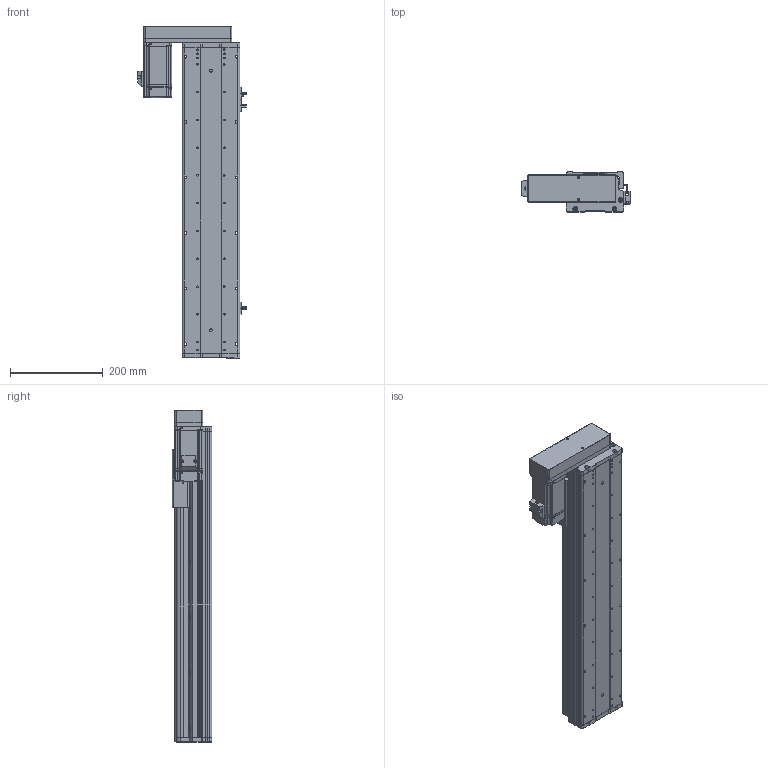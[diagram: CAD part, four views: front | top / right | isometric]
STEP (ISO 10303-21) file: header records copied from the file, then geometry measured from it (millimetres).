
FILE_DESCRIPTION (( 'STEP AP214' ), '1' );
FILE_NAME ('KSD125S-S450-ML-CM.STEP', '2017-10-21T08:32:52', ( '微软用户' ), ( '微软中国' ), 'SwSTEP 2.0', 'SolidWorks 2014', '' );
FILE_SCHEMA (( 'AUTOMOTIVE_DESIGN' ));
Length unit declared in the file: millimetre
Products named in the file (16): U倰嫖萇EEㄜSX672; HTPA30S3M150_A_H6_a佪裝蚚; HTPA30S3M150_A_H6_a萇儂蚚; 125宽马达安装板连板左右折丝杆; 125悵誘欶酘衵殏; KSD125S-450俴最佪裝滅鳥裔; KSD125S-450俴最佪裝菁啣; MHMD042G1CA_2_03; 拸萇儂釱滅袉菜; 拸萇儂釱滅袉菜-1; U倰嫖萇假蚾璃; ヶ傷啣-125遵耀郪; KSD125-賑雄釱1; 125-帣傷啣1; KSD125S-S450-ML-CM; 覜茼え68遵圉猾敕
Assembly tree (19 placements, depth 2):
  KSD125S-S450-ML-CM
    125-帣傷啣1
    KSD125-賑雄釱1
    ヶ傷啣-125遵耀郪
    U倰嫖萇假蚾璃  x3
    拸萇儂釱滅袉菜-1
    拸萇儂釱滅袉菜
    MHMD042G1CA_2_03
    KSD125S-450俴最佪裝菁啣
    KSD125S-450俴最佪裝滅鳥裔
    125悵誘欶酘衵殏
    125宽马达安装板连板左右折丝杆
    HTPA30S3M150_A_H6_a萇儂蚚
    HTPA30S3M150_A_H6_a佪裝蚚
    U倰嫖萇EEㄜSX672  x3
    覜茼え68遵圉猾敕
Bounding box: 234.2 x 86 x 717.5 mm (x, y, z)
Volume: 2508546.5 mm3; surface area: 874708.8 mm2
Topology: 18 solids, 21 shells, 2183 faces, 6327 edges, 4173 vertices
Faces by surface type: cylinder 1362, plane 680, cone 119, bspline 22
Entity records: 76853 total; most frequent: CARTESIAN_POINT 15637, DIRECTION 12001, ORIENTED_EDGE 11162, EDGE_CURVE 5659, AXIS2_PLACEMENT_3D 4635, VERTEX_POINT 3765, VECTOR 2731, LINE 2731
